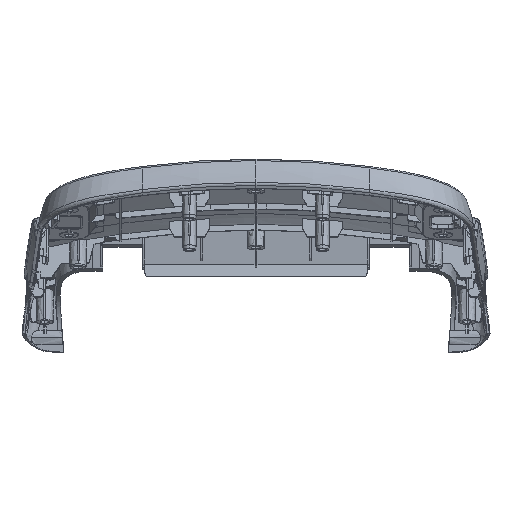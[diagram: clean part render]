
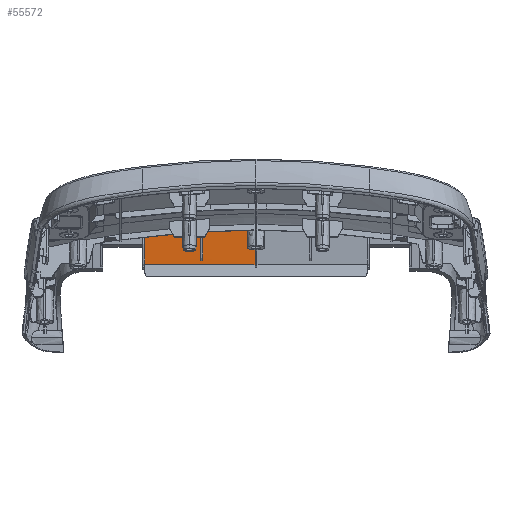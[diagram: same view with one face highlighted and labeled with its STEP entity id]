
A CAD part, top view. The second image highlights one B-rep face of the part: STEP entity #55572.
In plain terms, the highlighted free-form (B-spline) face has degree [3, 3] with [4, 7] control points.
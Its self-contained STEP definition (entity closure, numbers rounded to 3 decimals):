
#4624 = CARTESIAN_POINT ( 'NONE',  ( -44.653, 426.972, 548.352 ) ) ;
#7331 = CARTESIAN_POINT ( 'NONE',  ( -33.35, 427.644, 548.41 ) ) ;
#7389 = CARTESIAN_POINT ( 'NONE',  ( -22.638, 404.915, 546.96 ) ) ;
#11210 = EDGE_CURVE ( 'NONE', #221155, #230493, #252849, .T. ) ;
#14606 = CARTESIAN_POINT ( 'NONE',  ( -0.6, 414.534, 547.585 ) ) ;
#15976 = CARTESIAN_POINT ( 'NONE',  ( -32.15, 422.27, 548.065 ) ) ;
#17736 = CARTESIAN_POINT ( 'NONE',  ( -67., 407.739, 547.058 ) ) ;
#21431 = CARTESIAN_POINT ( 'NONE',  ( -25.345, 407.487, 547.13 ) ) ;
#21646 = CARTESIAN_POINT ( 'NONE',  ( -34.305, 422.42, 548.072 ) ) ;
#25075 = ORIENTED_EDGE ( 'NONE', *, *, #257256, .T. ) ;
#28065 = CARTESIAN_POINT ( 'NONE',  ( -45.736, 404.889, 546.928 ) ) ;
#31272 = B_SPLINE_SURFACE_WITH_KNOTS ( 'NONE', 3, 3, ( 
 ( #208045, #82329, #7389, #217213, #28065, #112232, #62986 ),
 ( #104425, #249428, #196506, #145886, #60261, #231482, #144524 ),
 ( #188710, #83709, #147267, #21646, #88817, #240617, #55521 ),
 ( #114949, #181238, #137043, #76212, #52797, #260003, #51452 ) ),
 .UNSPECIFIED., .F., .F., .F.,
 ( 4, 4 ),
 ( 4, 3, 4 ),
 ( 0., 26.332 ),
 ( 0., 34.997, 69.307 ),
 .UNSPECIFIED. ) ;
#33379 = B_SPLINE_CURVE_WITH_KNOTS ( 'NONE', 3,
 ( #205883, #204517, #96805, #58109 ),
 .UNSPECIFIED., .F., .F.,
 ( 4, 4 ),
 ( 0., 1. ),
 .UNSPECIFIED. ) ;
#33553 = CARTESIAN_POINT ( 'NONE',  ( -32.15, 411.381, 547.364 ) ) ;
#34674 = EDGE_CURVE ( 'NONE', #230493, #197597, #266488, .T. ) ;
#44554 = CARTESIAN_POINT ( 'NONE',  ( -33.35, 427.644, 548.41 ) ) ;
#44813 = CARTESIAN_POINT ( 'NONE',  ( -0.6, 407.486, 547.131 ) ) ;
#49463 = EDGE_CURVE ( 'NONE', #261366, #182588, #33379, .T. ) ;
#51452 = CARTESIAN_POINT ( 'NONE',  ( -68.621, 431.117, 548.559 ) ) ;
#52099 = CARTESIAN_POINT ( 'NONE',  ( -0.6, 428.631, 548.493 ) ) ;
#52797 = CARTESIAN_POINT ( 'NONE',  ( -45.744, 431.167, 548.621 ) ) ;
#55142 = VERTEX_POINT ( 'NONE', #52099 ) ;
#55521 = CARTESIAN_POINT ( 'NONE',  ( -68.617, 422.358, 547.995 ) ) ;
#55572 = ADVANCED_FACE ( 'NONE', ( #153737 ), #31272, .T. ) ;
#56090 = ORIENTED_EDGE ( 'NONE', *, *, #11210, .F. ) ;
#56838 = VERTEX_POINT ( 'NONE', #263400 ) ;
#58109 = CARTESIAN_POINT ( 'NONE',  ( -67., 424.599, 548.144 ) ) ;
#60261 = CARTESIAN_POINT ( 'NONE',  ( -45.738, 413.649, 547.492 ) ) ;
#62986 = CARTESIAN_POINT ( 'NONE',  ( -68.609, 404.839, 546.866 ) ) ;
#75302 = CARTESIAN_POINT ( 'NONE',  ( -33.35, 411.385, 547.363 ) ) ;
#76212 = CARTESIAN_POINT ( 'NONE',  ( -34.307, 431.18, 548.636 ) ) ;
#79927 = EDGE_CURVE ( 'NONE', #174999, #55142, #255703, .T. ) ;
#80143 = EDGE_CURVE ( 'NONE', #197597, #56838, #179900, .T. ) ;
#82329 = CARTESIAN_POINT ( 'NONE',  ( -10.975, 404.92, 546.966 ) ) ;
#83709 = CARTESIAN_POINT ( 'NONE',  ( -10.976, 422.438, 548.094 ) ) ;
#83976 = B_SPLINE_CURVE_WITH_KNOTS ( 'NONE', 3,
 ( #7331, #4624, #257221, #218513 ),
 .UNSPECIFIED., .F., .F.,
 ( 4, 4 ),
 ( 0., 1. ),
 .UNSPECIFIED. ) ;
#88817 = CARTESIAN_POINT ( 'NONE',  ( -45.741, 422.408, 548.057 ) ) ;
#90024 = CARTESIAN_POINT ( 'NONE',  ( -33.35, 416.805, 547.712 ) ) ;
#96805 = CARTESIAN_POINT ( 'NONE',  ( -67., 418.979, 547.782 ) ) ;
#97556 = CARTESIAN_POINT ( 'NONE',  ( -21.675, 428.315, 548.467 ) ) ;
#104425 = CARTESIAN_POINT ( 'NONE',  ( 0.686, 413.679, 547.53 ) ) ;
#112232 = CARTESIAN_POINT ( 'NONE',  ( -57.171, 404.87, 546.904 ) ) ;
#114949 = CARTESIAN_POINT ( 'NONE',  ( 0.686, 431.197, 548.658 ) ) ;
#118128 = CARTESIAN_POINT ( 'NONE',  ( -0.6, 407.486, 547.131 ) ) ;
#119649 = CARTESIAN_POINT ( 'NONE',  ( -0.6, 428.631, 548.493 ) ) ;
#122707 = ORIENTED_EDGE ( 'NONE', *, *, #49463, .F. ) ;
#131058 = CARTESIAN_POINT ( 'NONE',  ( -32.55, 411.383, 547.363 ) ) ;
#137043 = CARTESIAN_POINT ( 'NONE',  ( -22.642, 431.193, 548.652 ) ) ;
#137494 = CARTESIAN_POINT ( 'NONE',  ( -32.15, 411.381, 547.364 ) ) ;
#144524 = CARTESIAN_POINT ( 'NONE',  ( -68.613, 413.598, 547.431 ) ) ;
#145200 = ORIENTED_EDGE ( 'NONE', *, *, #80143, .F. ) ;
#145886 = CARTESIAN_POINT ( 'NONE',  ( -34.303, 413.661, 547.508 ) ) ;
#147267 = CARTESIAN_POINT ( 'NONE',  ( -22.64, 422.433, 548.088 ) ) ;
#149794 = CARTESIAN_POINT ( 'NONE',  ( -67., 407.739, 547.058 ) ) ;
#153737 = FACE_OUTER_BOUND ( 'NONE', #168973, .T. ) ;
#155404 = EDGE_CURVE ( 'NONE', #261366, #174999, #195908, .T. ) ;
#157063 = CARTESIAN_POINT ( 'NONE',  ( -32.15, 427.714, 548.416 ) ) ;
#157666 = CARTESIAN_POINT ( 'NONE',  ( -33.35, 411.385, 547.363 ) ) ;
#162004 = ORIENTED_EDGE ( 'NONE', *, *, #243997, .T. ) ;
#168973 = EDGE_LOOP ( 'NONE', ( #145200, #217783, #56090, #162004, #122707, #212609, #191301, #25075 ) ) ;
#174999 = VERTEX_POINT ( 'NONE', #201243 ) ;
#179900 = B_SPLINE_CURVE_WITH_KNOTS ( 'NONE', 3,
 ( #137494, #203753, #15976, #202390 ),
 .UNSPECIFIED., .F., .F.,
 ( 4, 4 ),
 ( 0., 1. ),
 .UNSPECIFIED. ) ;
#181238 = CARTESIAN_POINT ( 'NONE',  ( -10.977, 431.197, 548.658 ) ) ;
#182588 = VERTEX_POINT ( 'NONE', #269304 ) ;
#188575 = B_SPLINE_CURVE_WITH_KNOTS ( 'NONE', 3,
 ( #119649, #263314, #97556, #157063 ),
 .UNSPECIFIED., .F., .F.,
 ( 4, 4 ),
 ( 0., 1. ),
 .UNSPECIFIED. ) ;
#188710 = CARTESIAN_POINT ( 'NONE',  ( 0.686, 422.438, 548.094 ) ) ;
#191301 = ORIENTED_EDGE ( 'NONE', *, *, #79927, .T. ) ;
#195908 = B_SPLINE_CURVE_WITH_KNOTS ( 'NONE', 3,
 ( #149794, #231267, #21431, #44813 ),
 .UNSPECIFIED., .F., .F.,
 ( 4, 4 ),
 ( 0., 1. ),
 .UNSPECIFIED. ) ;
#196506 = CARTESIAN_POINT ( 'NONE',  ( -22.639, 413.674, 547.524 ) ) ;
#197597 = VERTEX_POINT ( 'NONE', #33553 ) ;
#199670 = CARTESIAN_POINT ( 'NONE',  ( -0.6, 428.631, 548.493 ) ) ;
#201243 = CARTESIAN_POINT ( 'NONE',  ( -0.6, 407.486, 547.131 ) ) ;
#202390 = CARTESIAN_POINT ( 'NONE',  ( -32.15, 427.714, 548.416 ) ) ;
#203753 = CARTESIAN_POINT ( 'NONE',  ( -32.15, 416.826, 547.714 ) ) ;
#204517 = CARTESIAN_POINT ( 'NONE',  ( -67., 413.359, 547.42 ) ) ;
#205883 = CARTESIAN_POINT ( 'NONE',  ( -67., 407.739, 547.058 ) ) ;
#208045 = CARTESIAN_POINT ( 'NONE',  ( 0.686, 404.92, 546.965 ) ) ;
#212609 = ORIENTED_EDGE ( 'NONE', *, *, #155404, .T. ) ;
#217213 = CARTESIAN_POINT ( 'NONE',  ( -34.301, 404.902, 546.944 ) ) ;
#217783 = ORIENTED_EDGE ( 'NONE', *, *, #34674, .F. ) ;
#218513 = CARTESIAN_POINT ( 'NONE',  ( -67., 424.599, 548.144 ) ) ;
#221155 = VERTEX_POINT ( 'NONE', #261529 ) ;
#224441 = CARTESIAN_POINT ( 'NONE',  ( -0.6, 421.583, 548.039 ) ) ;
#230493 = VERTEX_POINT ( 'NONE', #232783 ) ;
#231267 = CARTESIAN_POINT ( 'NONE',  ( -47.478, 407.571, 547.106 ) ) ;
#231482 = CARTESIAN_POINT ( 'NONE',  ( -57.174, 413.629, 547.468 ) ) ;
#232783 = CARTESIAN_POINT ( 'NONE',  ( -33.35, 411.385, 547.363 ) ) ;
#234662 = CARTESIAN_POINT ( 'NONE',  ( -32.95, 411.384, 547.363 ) ) ;
#240617 = CARTESIAN_POINT ( 'NONE',  ( -57.177, 422.388, 548.033 ) ) ;
#243769 = CARTESIAN_POINT ( 'NONE',  ( -32.15, 411.381, 547.364 ) ) ;
#243997 = EDGE_CURVE ( 'NONE', #221155, #182588, #83976, .T. ) ;
#249428 = CARTESIAN_POINT ( 'NONE',  ( -10.976, 413.679, 547.53 ) ) ;
#252849 = B_SPLINE_CURVE_WITH_KNOTS ( 'NONE', 3,
 ( #44554, #261211, #90024, #157666 ),
 .UNSPECIFIED., .F., .F.,
 ( 4, 4 ),
 ( 0., 1. ),
 .UNSPECIFIED. ) ;
#255703 = B_SPLINE_CURVE_WITH_KNOTS ( 'NONE', 3,
 ( #118128, #14606, #224441, #199670 ),
 .UNSPECIFIED., .F., .F.,
 ( 4, 4 ),
 ( 0., 1. ),
 .UNSPECIFIED. ) ;
#257221 = CARTESIAN_POINT ( 'NONE',  ( -55.868, 425.958, 548.265 ) ) ;
#257256 = EDGE_CURVE ( 'NONE', #55142, #56838, #188575, .T. ) ;
#260003 = CARTESIAN_POINT ( 'NONE',  ( -57.18, 431.148, 548.597 ) ) ;
#261211 = CARTESIAN_POINT ( 'NONE',  ( -33.35, 422.225, 548.061 ) ) ;
#261366 = VERTEX_POINT ( 'NONE', #17736 ) ;
#261529 = CARTESIAN_POINT ( 'NONE',  ( -33.35, 427.644, 548.41 ) ) ;
#263314 = CARTESIAN_POINT ( 'NONE',  ( -11.158, 428.62, 548.492 ) ) ;
#263400 = CARTESIAN_POINT ( 'NONE',  ( -32.15, 427.714, 548.416 ) ) ;
#266488 = B_SPLINE_CURVE_WITH_KNOTS ( 'NONE', 3,
 ( #75302, #234662, #131058, #243769 ),
 .UNSPECIFIED., .F., .F.,
 ( 4, 4 ),
 ( 0., 1. ),
 .UNSPECIFIED. ) ;
#269304 = CARTESIAN_POINT ( 'NONE',  ( -67., 424.599, 548.144 ) ) ;
